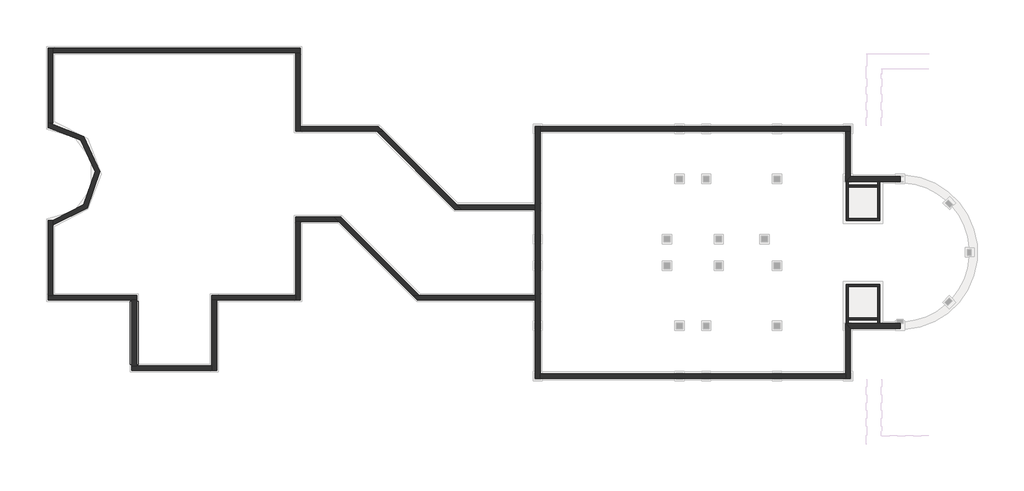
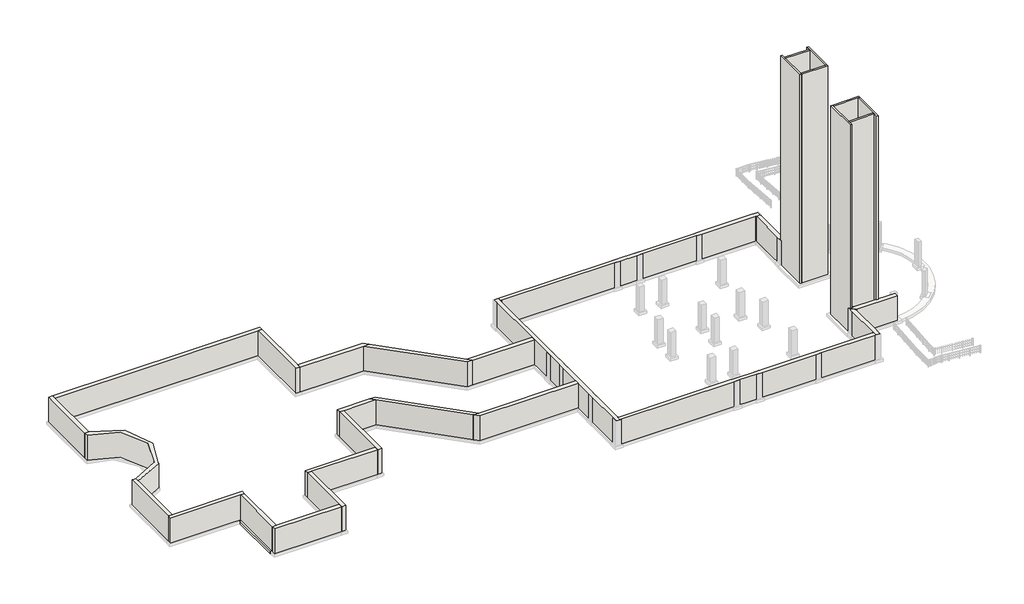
# One storey, part 1 of 3: 32 walls, 1 footing.
"""IFC4 building model written with IfcOpenShell, lengths in millimetres."""

from ifc_helpers import new_model, si_unit, frame, origin, place, context, project, spatial, polyline, circle_curve, outline, extrude, faceted_brep, element, save
from ifc_brep_helpers import plane_surface, cylinder_surface, revolved_surface, advanced_brep

model = new_model("IFC4")

# Units and contexts
model_context = context("Model", 3, world=origin())
ifc_project = project(units=[si_unit("LENGTHUNIT", "METRE", prefix="MILLI")], contexts=[model_context])

# Site, building, storey
site = spatial("IfcSite", under=ifc_project)
building = spatial("IfcBuilding", under=site)
storey = spatial("IfcBuildingStorey", under=building, Name="T.O. Footing", Elevation=-3048.0)

# Footing
placement = place(None, origin())
element("IfcFooting", 1, ObjectType="Bearing Footing - 30\" x 12\"", at=placement, inside=storey, context=model_context, shape_type="SweptSolid", body=[
    extrude(outline(polyline([(-59651.3148623, 652.3112109), (-58889.3148623, 652.3112109), (-58889.3148623, -5443.6887891), (-59651.3148623, -5443.6887891), (-59651.3148623, 652.3112109)])), frame((0.0, 0.0, -3352.8), z_axis=(0.0, 0.0, 1.0), x_axis=(1.0, 0.0, 0.0)), (0.0, 0.0, 1.0), 304.8),
])

# Walls
element("IfcWall", 2, ObjectType="18\" Concrete", at=placement, inside=storey, context=model_context, shape_type="Brep", body=[
    faceted_brep([(-19852.725255, -6815.2887891, -3048.0), (-19852.725255, -6358.0887891, -3048.0), (-19852.725255, -6281.8887891, -3048.0), (-19852.725255, -2014.6887891, -3048.0), (-19852.725255, -1405.0887891, -3048.0), (-19852.725255, 3827.3112109, -3048.0), (-19852.725255, 4436.9112109, -3048.0), (-19852.725255, 6421.2862109, -3048.0), (-19852.725255, 7030.8862109, -3048.0), (-19852.725255, 17140.0862109, -3048.0), (-19852.725255, 17216.2862109, -3048.0), (-19852.725255, 17673.4862109, -3048.0), (-19852.725255, 17673.4862109, 0.0), (-19852.725255, 17216.2862109, 0.0), (-19852.725255, 17140.0862109, 0.0), (-19852.725255, 7030.8862109, 0.0), (-19852.725255, 6421.2862109, 0.0), (-19852.725255, 4436.9112109, 0.0), (-19852.725255, 3827.3112109, 0.0), (-19852.725255, -1405.0887891, 0.0), (-19852.725255, -2014.6887891, 0.0), (-19852.725255, -6281.8887891, 0.0), (-19852.725255, -6358.0887891, 0.0), (-19852.725255, -6815.2887891, 0.0), (-20309.925255, -6815.2887891, -3048.0), (-20309.925255, -6815.2887891, 0.0), (-20309.925255, -6281.8887891, 0.0), (-20309.925255, -2014.6887891, 0.0), (-20309.925255, -1405.0887891, 0.0), (-20309.925255, 804.7112109, 0.0), (-20309.925255, 1261.9112109, 0.0), (-20309.925255, 3827.3112109, 0.0), (-20309.925255, 4436.9112109, 0.0), (-20309.925255, 6421.2862109, 0.0), (-20309.925255, 7030.8862109, 0.0), (-20309.925255, 9596.2862109, 0.0), (-20309.925255, 10053.4862109, 0.0), (-20309.925255, 17140.0862109, 0.0), (-20309.925255, 17673.4862109, 0.0), (-20309.925255, 17673.4862109, -3048.0), (-20309.925255, 17140.0862109, -3048.0), (-20309.925255, 10053.4862109, -3048.0), (-20309.925255, 9596.2862109, -3048.0), (-20309.925255, 7030.8862109, -3048.0), (-20309.925255, 6421.2862109, -3048.0), (-20309.925255, 4436.9112109, -3048.0), (-20309.925255, 3827.3112109, -3048.0), (-20309.925255, 1261.9112109, -3048.0), (-20309.925255, 804.7112109, -3048.0), (-20309.925255, -1405.0887891, -3048.0), (-20309.925255, -2014.6887891, -3048.0), (-20309.925255, -6281.8887891, -3048.0)], [[[0, 1, 2, 3, 4, 5, 6, 7, 8, 9, 10, 11, 12, 13, 14, 15, 16, 17, 18, 19, 20, 21, 22, 23]], [[24, 25, 26, 27, 28, 29, 30, 31, 32, 33, 34, 35, 36, 37, 38, 39, 40, 41, 42, 43, 44, 45, 46, 47, 48, 49, 50, 51]], [[11, 10, 9, 8, 7, 6, 5, 4, 3, 2, 1, 0, 24, 51, 50, 49, 48, 47, 46, 45, 44, 43, 42, 41, 40, 39]], [[23, 22, 21, 20, 19, 18, 17, 16, 15, 14, 13, 12, 38, 37, 36, 35, 34, 33, 32, 31, 30, 29, 28, 27, 26, 25]], [[12, 11, 39, 38]], [[0, 23, 25, 24]]]),
])
element("IfcWall", 3, ObjectType="18\" Concrete", at=placement, inside=storey, context=model_context, shape_type="Brep", body=[
    faceted_brep([(-19852.725255, 17216.2862109, -3048.0), (-19776.525255, 17216.2862109, -3048.0), (-6619.325255, 17216.2862109, -3048.0), (-6009.725255, 17216.2862109, -3048.0), (-4025.350255, 17216.2862109, -3048.0), (-3415.750255, 17216.2862109, -3048.0), (2858.049745, 17216.2862109, -3048.0), (3467.649745, 17216.2862109, -3048.0), (9741.449745, 17216.2862109, -3048.0), (9817.649745, 17216.2862109, -3048.0), (10274.849745, 17216.2862109, -3048.0), (10274.849745, 17216.2862109, 0.0), (9817.649745, 17216.2862109, 0.0), (9741.449745, 17216.2862109, 0.0), (3467.649745, 17216.2862109, 0.0), (2858.049745, 17216.2862109, 0.0), (-3415.750255, 17216.2862109, 0.0), (-4025.350255, 17216.2862109, 0.0), (-6009.725255, 17216.2862109, 0.0), (-6619.325255, 17216.2862109, 0.0), (-19776.525255, 17216.2862109, 0.0), (-19852.725255, 17216.2862109, 0.0), (-19852.725255, 17673.4862109, -3048.0), (-19852.725255, 17673.4862109, 0.0), (-19776.525255, 17673.4862109, 0.0), (-6619.325255, 17673.4862109, 0.0), (-6009.725255, 17673.4862109, 0.0), (-4025.350255, 17673.4862109, 0.0), (-3415.750255, 17673.4862109, 0.0), (2858.049745, 17673.4862109, 0.0), (3467.649745, 17673.4862109, 0.0), (9741.449745, 17673.4862109, 0.0), (10274.849745, 17673.4862109, 0.0), (10274.849745, 17673.4862109, -3048.0), (9741.449745, 17673.4862109, -3048.0), (3467.649745, 17673.4862109, -3048.0), (2858.049745, 17673.4862109, -3048.0), (-3415.750255, 17673.4862109, -3048.0), (-4025.350255, 17673.4862109, -3048.0), (-6009.725255, 17673.4862109, -3048.0), (-6619.325255, 17673.4862109, -3048.0), (-19776.525255, 17673.4862109, -3048.0)], [[[0, 1, 2, 3, 4, 5, 6, 7, 8, 9, 10, 11, 12, 13, 14, 15, 16, 17, 18, 19, 20, 21]], [[22, 23, 24, 25, 26, 27, 28, 29, 30, 31, 32, 33, 34, 35, 36, 37, 38, 39, 40, 41]], [[10, 9, 8, 7, 6, 5, 4, 3, 2, 1, 0, 22, 41, 40, 39, 38, 37, 36, 35, 34, 33]], [[21, 20, 19, 18, 17, 16, 15, 14, 13, 12, 11, 32, 31, 30, 29, 28, 27, 26, 25, 24, 23]], [[0, 21, 23, 22]], [[11, 10, 33, 32]]]),
])
element("IfcWall", 4, ObjectType="18\" Concrete", at=placement, inside=storey, context=model_context, shape_type="Brep", body=[
    faceted_brep([(9817.649745, 17216.2862109, -3048.0), (9817.649745, 17140.0862109, -3048.0), (9817.649745, 12872.8862109, -3048.0), (9817.649745, 12339.4862109, -3048.0), (9817.649745, 12339.4862109, 0.0), (9817.649745, 12872.8862109, 0.0), (9817.649745, 17140.0862109, 0.0), (9817.649745, 17216.2862109, 0.0), (10274.849745, 17216.2862109, -3048.0), (10274.849745, 17216.2862109, 0.0), (10274.849745, 17140.0862109, 0.0), (10274.849745, 12872.8862109, 0.0), (10274.849745, 12796.6862109, 0.0), (10274.849745, 12796.6862109, -3048.0), (10274.849745, 12872.8862109, -3048.0), (10274.849745, 17140.0862109, -3048.0)], [[[0, 1, 2, 3, 4, 5, 6, 7]], [[8, 9, 10, 11, 12, 13, 14, 15]], [[3, 2, 1, 0, 8, 15, 14, 13]], [[7, 6, 5, 4, 12, 11, 10, 9]], [[0, 7, 9, 8]], [[4, 3, 13, 12]]]),
])
element("IfcWall", 5, ObjectType="18\" Concrete", at=placement, inside=storey, context=model_context, shape_type="Brep", body=[
    faceted_brep([(9817.649745, 12339.4862109, -3048.0), (10351.049745, 12339.4862109, -3048.0), (14794.462245, 12339.4862109, -3048.0), (15099.262245, 12339.4862109, -3048.0), (15099.262245, 12339.4862109, 0.0), (14794.462245, 12339.4862109, 0.0), (10351.049745, 12339.4862109, 0.0), (9817.649745, 12339.4862109, 0.0), (10274.849745, 12796.6862109, -3048.0), (10274.849745, 12796.6862109, 0.0), (10351.049745, 12796.6862109, 0.0), (14794.462245, 12796.6862109, 0.0), (15099.262245, 12796.6862109, 0.0), (15099.262245, 12796.6862109, -3048.0), (14794.462245, 12796.6862109, -3048.0), (10351.049745, 12796.6862109, -3048.0)], [[[0, 1, 2, 3, 4, 5, 6, 7]], [[8, 9, 10, 11, 12, 13, 14, 15]], [[3, 2, 1, 0, 8, 15, 14, 13]], [[4, 3, 13, 12]], [[7, 6, 5, 4, 12, 11, 10, 9]], [[0, 7, 9, 8]]]),
])
element("IfcWall", 6, ObjectType="18\" Concrete", at=placement, inside=storey, context=model_context, shape_type="Brep", body=[
    faceted_brep([(10274.849745, -1938.4887891, -3048.0), (10351.049745, -1938.4887891, -3048.0), (15099.262245, -1938.4887891, -3048.0), (15099.262245, -1938.4887891, 0.0), (10351.049745, -1938.4887891, 0.0), (10274.849745, -1938.4887891, 0.0), (9817.649745, -1481.2887891, -3048.0), (9817.649745, -1481.2887891, 0.0), (10351.049745, -1481.2887891, 0.0), (14794.462245, -1481.2887891, 0.0), (15099.262245, -1481.2887891, 0.0), (15099.262245, -1481.2887891, -3048.0), (14794.462245, -1481.2887891, -3048.0), (10351.049745, -1481.2887891, -3048.0)], [[[0, 1, 2, 3, 4, 5]], [[6, 7, 8, 9, 10, 11, 12, 13]], [[2, 1, 0, 6, 13, 12, 11]], [[3, 2, 11, 10]], [[5, 4, 3, 10, 9, 8, 7]], [[0, 5, 7, 6]]]),
])
element("IfcWall", 7, ObjectType="18\" Concrete", at=placement, inside=storey, context=model_context, shape_type="Brep", body=[
    faceted_brep([(10274.849745, -6815.2887891, -3048.0), (10274.849745, -6281.8887891, -3048.0), (10274.849745, -2014.6887891, -3048.0), (10274.849745, -1938.4887891, -3048.0), (10274.849745, -1938.4887891, 0.0), (10274.849745, -2014.6887891, 0.0), (10274.849745, -6281.8887891, 0.0), (10274.849745, -6815.2887891, 0.0), (9817.649745, -6815.2887891, -3048.0), (9817.649745, -6815.2887891, 0.0), (9817.649745, -6358.0887891, 0.0), (9817.649745, -6281.8887891, 0.0), (9817.649745, -2014.6887891, 0.0), (9817.649745, -1481.2887891, 0.0), (9817.649745, -1481.2887891, -3048.0), (9817.649745, -2014.6887891, -3048.0), (9817.649745, -6281.8887891, -3048.0), (9817.649745, -6358.0887891, -3048.0)], [[[0, 1, 2, 3, 4, 5, 6, 7]], [[8, 9, 10, 11, 12, 13, 14, 15, 16, 17]], [[3, 2, 1, 0, 8, 17, 16, 15, 14]], [[7, 6, 5, 4, 13, 12, 11, 10, 9]], [[4, 3, 14, 13]], [[0, 7, 9, 8]]]),
])
element("IfcWall", 8, ObjectType="18\" Concrete", at=placement, inside=storey, context=model_context, shape_type="Brep", body=[
    faceted_brep([(9817.649745, -6358.0887891, -3048.0), (9741.449745, -6358.0887891, -3048.0), (3467.649745, -6358.0887891, -3048.0), (2858.049745, -6358.0887891, -3048.0), (-3415.750255, -6358.0887891, -3048.0), (-4025.350255, -6358.0887891, -3048.0), (-6009.725255, -6358.0887891, -3048.0), (-6619.325255, -6358.0887891, -3048.0), (-19776.525255, -6358.0887891, -3048.0), (-19852.725255, -6358.0887891, -3048.0), (-19852.725255, -6358.0887891, 0.0), (-19776.525255, -6358.0887891, 0.0), (-6619.325255, -6358.0887891, 0.0), (-6009.725255, -6358.0887891, 0.0), (-4025.350255, -6358.0887891, 0.0), (-3415.750255, -6358.0887891, 0.0), (2858.049745, -6358.0887891, 0.0), (3467.649745, -6358.0887891, 0.0), (9741.449745, -6358.0887891, 0.0), (9817.649745, -6358.0887891, 0.0), (9817.649745, -6815.2887891, -3048.0), (9817.649745, -6815.2887891, 0.0), (9741.449745, -6815.2887891, 0.0), (3467.649745, -6815.2887891, 0.0), (2858.049745, -6815.2887891, 0.0), (-3415.750255, -6815.2887891, 0.0), (-4025.350255, -6815.2887891, 0.0), (-6009.725255, -6815.2887891, 0.0), (-6619.325255, -6815.2887891, 0.0), (-19776.525255, -6815.2887891, 0.0), (-19852.725255, -6815.2887891, 0.0), (-19852.725255, -6815.2887891, -3048.0), (-19776.525255, -6815.2887891, -3048.0), (-6619.325255, -6815.2887891, -3048.0), (-6009.725255, -6815.2887891, -3048.0), (-4025.350255, -6815.2887891, -3048.0), (-3415.750255, -6815.2887891, -3048.0), (2858.049745, -6815.2887891, -3048.0), (3467.649745, -6815.2887891, -3048.0), (9741.449745, -6815.2887891, -3048.0)], [[[0, 1, 2, 3, 4, 5, 6, 7, 8, 9, 10, 11, 12, 13, 14, 15, 16, 17, 18, 19]], [[20, 21, 22, 23, 24, 25, 26, 27, 28, 29, 30, 31, 32, 33, 34, 35, 36, 37, 38, 39]], [[9, 8, 7, 6, 5, 4, 3, 2, 1, 0, 20, 39, 38, 37, 36, 35, 34, 33, 32, 31]], [[19, 18, 17, 16, 15, 14, 13, 12, 11, 10, 30, 29, 28, 27, 26, 25, 24, 23, 22, 21]], [[10, 9, 31, 30]], [[0, 19, 21, 20]]]),
])
element("IfcWall", 9, ObjectType="18\" Concrete", at=placement, inside=storey, context=model_context, shape_type="Brep", body=[
    faceted_brep([(-20309.925255, 1261.9112109, -3048.0), (-31570.417349, 1261.9112109, -3048.0), (-32216.9957897, 1261.9112109, -3048.0), (-32216.9957897, 1261.9112109, 0.0), (-31570.417349, 1261.9112109, 0.0), (-20309.925255, 1261.9112109, 0.0), (-20309.925255, 804.7112109, -3048.0), (-20309.925255, 804.7112109, 0.0), (-31759.7957897, 804.7112109, 0.0), (-31759.7957897, 804.7112109, -3048.0)], [[[0, 1, 2, 3, 4, 5]], [[6, 7, 8, 9]], [[2, 1, 0, 6, 9]], [[5, 4, 3, 8, 7]], [[0, 5, 7, 6]], [[3, 2, 9, 8]]]),
])
element("IfcWall", 10, ObjectType="18\" Concrete", at=placement, inside=storey, context=model_context, shape_type="Brep", body=[
    faceted_brep([(-31570.417349, 1261.9112109, -3048.0), (-39190.417349, 8881.9112109, -3048.0), (-39190.417349, 8881.9112109, 0.0), (-31570.417349, 1261.9112109, 0.0), (-32216.9957897, 1261.9112109, -3048.0), (-32216.9957897, 1261.9112109, 0.0), (-39379.7957897, 8424.7112109, 0.0), (-39836.9957897, 8881.9112109, 0.0), (-39836.9957897, 8881.9112109, -3048.0), (-39379.7957897, 8424.7112109, -3048.0)], [[[0, 1, 2, 3]], [[4, 5, 6, 7, 8, 9]], [[1, 0, 4, 9, 8]], [[3, 2, 7, 6, 5]], [[0, 3, 5, 4]], [[2, 1, 8, 7]]]),
])
element("IfcWall", 11, ObjectType="18\" Concrete", at=placement, inside=storey, context=model_context, shape_type="Brep", body=[
    faceted_brep([(-39836.9957897, 8881.9112109, -3048.0), (-43595.3398623, 8881.9112109, -3048.0), (-43595.3398623, 8881.9112109, 0.0), (-39836.9957897, 8881.9112109, 0.0), (-39379.7957897, 8424.7112109, -3048.0), (-39379.7957897, 8424.7112109, 0.0), (-43138.1398623, 8424.7112109, 0.0), (-43595.3398623, 8424.7112109, 0.0), (-43595.3398623, 8424.7112109, -3048.0), (-43138.1398623, 8424.7112109, -3048.0)], [[[0, 1, 2, 3]], [[4, 5, 6, 7, 8, 9]], [[1, 0, 4, 9, 8]], [[3, 2, 7, 6, 5]], [[0, 3, 5, 4]], [[2, 1, 8, 7]]]),
])
element("IfcWall", 12, ObjectType="18\" Concrete", at=placement, inside=storey, context=model_context, shape_type="Brep", body=[
    faceted_brep([(-43138.1398623, 804.7112109, -3048.0), (-43138.1398623, 8424.7112109, -3048.0), (-43138.1398623, 8424.7112109, 0.0), (-43138.1398623, 804.7112109, 0.0), (-43595.3398623, 804.7112109, -3048.0), (-43595.3398623, 804.7112109, 0.0), (-43595.3398623, 1261.9112109, 0.0), (-43595.3398623, 8424.7112109, 0.0), (-43595.3398623, 8424.7112109, -3048.0), (-43595.3398623, 1261.9112109, -3048.0)], [[[0, 1, 2, 3]], [[4, 5, 6, 7, 8, 9]], [[1, 0, 4, 9, 8]], [[3, 2, 7, 6, 5]], [[2, 1, 8, 7]], [[0, 3, 5, 4]]]),
])
element("IfcWall", 13, ObjectType="18\" Concrete", at=placement, inside=storey, context=model_context, shape_type="Brep", body=[
    faceted_brep([(-67626.9148623, 804.7112109, -3048.0), (-59498.9148623, 804.7112109, -3048.0), (-59041.7148623, 804.7112109, -3048.0), (-59041.7148623, 804.7112109, 0.0), (-59498.9148623, 804.7112109, 0.0), (-67626.9148623, 804.7112109, 0.0), (-67626.9148623, 1261.9112109, -3048.0), (-67626.9148623, 1261.9112109, 0.0), (-67169.7148623, 1261.9112109, 0.0), (-59041.7148623, 1261.9112109, 0.0), (-59041.7148623, 1261.9112109, -3048.0), (-67169.7148623, 1261.9112109, -3048.0)], [[[0, 1, 2, 3, 4, 5]], [[6, 7, 8, 9, 10, 11]], [[2, 1, 0, 6, 11, 10]], [[5, 4, 3, 9, 8, 7]], [[0, 5, 7, 6]], [[3, 2, 10, 9]]]),
])
element("IfcWall", 14, ObjectType="18\" Concrete", at=placement, inside=storey, context=model_context, shape_type="Brep", body=[
    faceted_brep([(-51723.3398623, 804.7112109, -3048.0), (-51723.3398623, -5596.0887891, -3048.0), (-51723.3398623, -6053.2887891, -3048.0), (-51723.3398623, -6053.2887891, 0.0), (-51723.3398623, -5596.0887891, 0.0), (-51723.3398623, 804.7112109, 0.0), (-51266.1398623, 804.7112109, -3048.0), (-51266.1398623, 804.7112109, 0.0), (-51266.1398623, -6053.2887891, 0.0), (-51266.1398623, -6053.2887891, -3048.0)], [[[0, 1, 2, 3, 4, 5]], [[6, 7, 8, 9]], [[2, 1, 0, 6, 9]], [[5, 4, 3, 8, 7]], [[0, 5, 7, 6]], [[3, 2, 9, 8]]]),
])
element("IfcWall", 15, ObjectType="18\" Concrete", at=placement, inside=storey, context=model_context, shape_type="Brep", body=[
    faceted_brep([(-59498.9148623, -6053.2887891, -3048.0), (-51723.3398623, -6053.2887891, -3048.0), (-51723.3398623, -6053.2887891, 0.0), (-59498.9148623, -6053.2887891, 0.0), (-59498.9148623, -5596.0887891, -3048.0), (-59498.9148623, -5596.0887891, 0.0), (-59041.7148623, -5596.0887891, 0.0), (-51723.3398623, -5596.0887891, 0.0), (-51723.3398623, -5596.0887891, -3048.0), (-59041.7148623, -5596.0887891, -3048.0)], [[[0, 1, 2, 3]], [[4, 5, 6, 7, 8, 9]], [[1, 0, 4, 9, 8]], [[3, 2, 7, 6, 5]], [[2, 1, 8, 7]], [[0, 3, 5, 4]]]),
])
element("IfcWall", 16, ObjectType="18\" Concrete", at=placement, inside=storey, context=model_context, shape_type="SweptSolid", body=[
    extrude(outline(polyline([(-59041.7148623, 804.7112109), (-59041.7148623, -5596.0887891), (-59498.9148623, -5596.0887891), (-59498.9148623, 804.7112109), (-59041.7148623, 804.7112109)])), frame((0.0, 0.0, -3048.0), z_axis=(0.0, 0.0, 1.0), x_axis=(1.0, 0.0, 0.0)), (0.0, 0.0, 1.0), 3048.0),
])
element("IfcWall", 17, ObjectType="18\" Concrete", at=placement, inside=storey, context=model_context, shape_type="AdvancedBrep", body=[
    advanced_brep(
    [(-67626.9148623, 8529.7898368, -3048.0), (-67626.9148623, 1261.9112109, -3048.0), (-67626.9148623, 1261.9112109, 0.0), (-67626.9148623, 8529.7898368, 0.0), (-67169.7148623, 8547.6518335, -3048.0), (-67169.7148623, 8547.6518335, 0.0), (-67169.7148623, 8088.7771991, 0.0), (-67169.7148623, 1261.9112109, 0.0), (-67169.7148623, 1261.9112109, -3048.0), (-67169.7148623, 8088.7771991, -3048.0)],
    [
        (0, 1),
        (1, 2),
        (2, 3),
        (3, 0),
        (4, 5),
        (5, 6),
        (6, 7),
        (7, 8),
        (8, 9),
        (9, 4),
        (0, 4, circle_curve(frame((-67574.5273623, 13049.0987109, -3048.0), z_axis=(0.0, 0.0, 1.0), x_axis=(1.0, 0.0, 0.0)), 4519.6125)),
        (8, 1),
        (2, 7),
        (5, 3, circle_curve(frame((-67574.5273623, 13049.0987109, 0.0), z_axis=(0.0, 0.0, -1.0), x_axis=(1.0, 0.0, 0.0)), 4519.6125)),
    ],
    [
        plane_surface(frame((-67626.9148623, 8304.157078, -3048.0), z_axis=(-1.0, 0.0, 0.0), x_axis=(0.0, -1.0, 0.0))),
        plane_surface(frame((-67169.7148623, 8304.157078, -3048.0), z_axis=(1.0, 0.0, 0.0), x_axis=(0.0, 1.0, 0.0))),
        plane_surface(frame((-67626.9148623, 8304.157078, -3048.0), z_axis=(0.0, 0.0, -1.0), x_axis=(1.0, 0.0, 0.0))),
        plane_surface(frame((-67626.9148623, 1033.3112109, 0.0), z_axis=(0.0, 0.0, 1.0), x_axis=(1.0, 0.0, 0.0))),
        plane_surface(frame((-67222.1023623, 1261.9112109, -3048.0), z_axis=(0.0, -1.0, 0.0), x_axis=(-1.0, 0.0, 0.0))),
        revolved_surface(polyline([(-63054.91486229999, 13049.0987109, -3048.0), (-63054.91486229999, 13049.0987109, 0.0)]), (-67574.5273623, 13049.0987109, -3048.0), (0.0, 0.0, -1.0)),
    ],
    [
        (0, [[1, 2, 3, 4]]),
        (1, [[5, 6, 7, 8, 9, 10]]),
        (2, [[-1, 11, -10, -9, 12]]),
        (3, [[-3, 13, -7, -6, 14]]),
        (4, [[-2, -12, -8, -13]]),
        (5, [[-4, -14, -5, -11]]),
    ],
),
])
element("IfcWall", 18, ObjectType="18\" Concrete", at=placement, inside=storey, context=model_context, shape_type="AdvancedBrep", body=[
    advanced_brep(
    [(-67169.7148623, 8088.7771991, 0.0), (-67169.70501, 18009.4191719, 0.0), (-67626.9148623, 18025.6354796, 0.0), (-67626.9148623, 17568.4075851, 0.0), (-67169.7148623, 8547.6518335, 0.0), (-67169.7148623, 8088.7771991, -3048.0), (-67169.7148623, 8547.6518335, -3048.0), (-67626.9148623, 17568.4075851, -3048.0), (-67626.9148623, 18025.6354796, -3048.0), (-67169.70501, 18009.4191719, -3048.0)],
    [
        (0, 1, circle_curve(frame((-67574.5273623, 13049.0987109, 0.0), z_axis=(0.0, 0.0, 1.0), x_axis=(1.0, 0.0, 0.0)), 4976.8125)),
        (1, 2, circle_curve(frame((-67574.5273623, 13049.0987109, 0.0), z_axis=(0.0, 0.0, 1.0), x_axis=(1.0, 0.0, 0.0)), 4976.8122542)),
        (2, 3),
        (3, 4, circle_curve(frame((-67574.5273623, 13049.0987109, 0.0), z_axis=(0.0, 0.0, -1.0), x_axis=(1.0, 0.0, 0.0)), 4519.6125)),
        (4, 0),
        (5, 6),
        (6, 7, circle_curve(frame((-67574.5273623, 13049.0987109, -3048.0), z_axis=(0.0, 0.0, 1.0), x_axis=(1.0, 0.0, 0.0)), 4519.6125)),
        (7, 8),
        (8, 9, circle_curve(frame((-67574.5273623, 13049.0987109, -3048.0), z_axis=(0.0, 0.0, -1.0), x_axis=(1.0, 0.0, 0.0)), 4976.8125)),
        (9, 5, circle_curve(frame((-67574.5273623, 13049.0987109, -3048.0), z_axis=(0.0, 0.0, -1.0), x_axis=(1.0, 0.0, 0.0)), 4976.8122542)),
        (0, 5),
        (8, 2),
        (3, 7),
        (6, 4),
    ],
    [
        plane_surface(frame((-62597.7148623, 13049.0987109, 0.0), z_axis=(0.0, 0.0, 1.0), x_axis=(0.0, 1.0, 0.0))),
        plane_surface(frame((-62597.7148623, 13049.0987109, -3048.0), z_axis=(0.0, 0.0, -1.0), x_axis=(0.0, -1.0, 0.0))),
        cylinder_surface(frame((-67574.5273623, 13049.0987109, -3048.0), z_axis=(0.0, 0.0, 1.0), x_axis=(1.0, 0.0, 0.0)), 4976.8125),
        revolved_surface(polyline([(-63054.91486229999, 13049.0987109, -3048.0), (-63054.91486229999, 13049.0987109, 0.0)]), (-67574.5273623, 13049.0987109, -3048.0), (0.0, 0.0, -1.0)),
        plane_surface(frame((-67169.7148623, 8304.157078, -3048.0), z_axis=(-1.0, 0.0, 0.0), x_axis=(0.0, 1.0, 0.0))),
        plane_surface(frame((-67626.9148623, 25064.8862109, -3048.0), z_axis=(-1.0, 0.0, 0.0), x_axis=(0.0, -1.0, 0.0))),
    ],
    [
        (0, [[1, 2, 3, 4, 5]]),
        (1, [[6, 7, 8, 9, 10]]),
        (2, [[-2, -1, 11, -10, -9, 12]]),
        (3, [[-4, 13, -7, 14]]),
        (4, [[-5, -14, -6, -11]]),
        (5, [[-3, -12, -8, -13]]),
    ],
),
])
element("IfcWall", 19, ObjectType="18\" Concrete", at=placement, inside=storey, context=model_context, shape_type="AdvancedBrep", body=[
    advanced_brep(
    [(-67626.9148623, 25293.4862109, -3048.0), (-67626.9148623, 18025.6354796, -3048.0), (-67626.9148623, 18025.6354796, 0.0), (-67626.9148623, 25293.4862109, 0.0), (-67169.7148623, 25293.4862109, -3048.0), (-67169.7148623, 25293.4862109, 0.0), (-67169.7148623, 24836.2862109, 0.0), (-67169.7148623, 18009.4202227, 0.0), (-67169.7148623, 18009.4202227, -3048.0), (-67169.7148623, 24836.2862109, -3048.0)],
    [
        (0, 1),
        (1, 2),
        (2, 3),
        (3, 0),
        (4, 5),
        (5, 6),
        (6, 7),
        (7, 8),
        (8, 9),
        (9, 4),
        (0, 4),
        (8, 1, circle_curve(frame((-67574.5273623, 13049.0987109, -3048.0), z_axis=(0.0, 0.0, 1.0), x_axis=(1.0, 0.0, 0.0)), 4976.8125)),
        (2, 7, circle_curve(frame((-67574.5273623, 13049.0987109, 0.0), z_axis=(0.0, 0.0, -1.0), x_axis=(1.0, 0.0, 0.0)), 4976.8125)),
        (5, 3),
    ],
    [
        plane_surface(frame((-67626.9148623, 25064.8862109, -3048.0), z_axis=(-1.0, 0.0, 0.0), x_axis=(0.0, -1.0, 0.0))),
        plane_surface(frame((-67169.7148623, 25064.8862109, -3048.0), z_axis=(1.0, 0.0, 0.0), x_axis=(0.0, 1.0, 0.0))),
        plane_surface(frame((-67626.9148623, 25064.8862109, -3048.0), z_axis=(0.0, 0.0, -1.0), x_axis=(1.0, 0.0, 0.0))),
        plane_surface(frame((-67626.9148623, 17794.0403438, 0.0), z_axis=(0.0, 0.0, 1.0), x_axis=(1.0, 0.0, 0.0))),
        revolved_surface(polyline([(-62597.714862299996, 13049.0987109, 0.0), (-62597.714862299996, 13049.0987109, -3048.0)]), (-67574.5273623, 13049.0987109, -3048.0), (0.0, 0.0, 1.0)),
        plane_surface(frame((-43366.7398623, 25293.4862109, -3048.0), z_axis=(0.0, 1.0, 0.0), x_axis=(-1.0, 0.0, 0.0))),
    ],
    [
        (0, [[1, 2, 3, 4]]),
        (1, [[5, 6, 7, 8, 9, 10]]),
        (2, [[-1, 11, -10, -9, 12]]),
        (3, [[-3, 13, -7, -6, 14]]),
        (4, [[-2, -12, -8, -13]]),
        (5, [[-4, -14, -5, -11]]),
    ],
),
])
element("IfcWall", 20, ObjectType="18\" Concrete", at=placement, inside=storey, context=model_context, shape_type="Brep", body=[
    faceted_brep([(-43138.1398623, 25293.4862109, -3048.0), (-67169.7148623, 25293.4862109, -3048.0), (-67169.7148623, 25293.4862109, 0.0), (-43138.1398623, 25293.4862109, 0.0), (-43138.1398623, 24836.2862109, -3048.0), (-43138.1398623, 24836.2862109, 0.0), (-43595.3398623, 24836.2862109, 0.0), (-67169.7148623, 24836.2862109, 0.0), (-67169.7148623, 24836.2862109, -3048.0), (-43595.3398623, 24836.2862109, -3048.0)], [[[0, 1, 2, 3]], [[4, 5, 6, 7, 8, 9]], [[1, 0, 4, 9, 8]], [[3, 2, 7, 6, 5]], [[2, 1, 8, 7]], [[0, 3, 5, 4]]]),
])
element("IfcWall", 21, ObjectType="18\" Concrete", at=placement, inside=storey, context=model_context, shape_type="Brep", body=[
    faceted_brep([(-43138.1398623, 17216.2862109, -3048.0), (-43138.1398623, 17673.4862109, -3048.0), (-43138.1398623, 24836.2862109, -3048.0), (-43138.1398623, 24836.2862109, 0.0), (-43138.1398623, 17673.4862109, 0.0), (-43138.1398623, 17216.2862109, 0.0), (-43595.3398623, 17216.2862109, -3048.0), (-43595.3398623, 17216.2862109, 0.0), (-43595.3398623, 24836.2862109, 0.0), (-43595.3398623, 24836.2862109, -3048.0)], [[[0, 1, 2, 3, 4, 5]], [[6, 7, 8, 9]], [[2, 1, 0, 6, 9]], [[5, 4, 3, 8, 7]], [[3, 2, 9, 8]], [[0, 5, 7, 6]]]),
])
element("IfcWall", 22, ObjectType="18\" Concrete", at=placement, inside=storey, context=model_context, shape_type="Brep", body=[
    faceted_brep([(-35548.8277493, 17673.4862109, -3048.0), (-43138.1398623, 17673.4862109, -3048.0), (-43138.1398623, 17673.4862109, 0.0), (-35548.8277493, 17673.4862109, 0.0), (-35091.6277493, 17216.2862109, -3048.0), (-35091.6277493, 17216.2862109, 0.0), (-35738.2061901, 17216.2862109, 0.0), (-43138.1398623, 17216.2862109, 0.0), (-43138.1398623, 17216.2862109, -3048.0), (-35738.2061901, 17216.2862109, -3048.0)], [[[0, 1, 2, 3]], [[4, 5, 6, 7, 8, 9]], [[1, 0, 4, 9, 8]], [[3, 2, 7, 6, 5]], [[2, 1, 8, 7]], [[0, 3, 5, 4]]]),
])
element("IfcWall", 23, ObjectType="18\" Concrete", at=placement, inside=storey, context=model_context, shape_type="Brep", body=[
    faceted_brep([(-27471.6277493, 9596.2862109, -3048.0), (-27928.8277493, 10053.4862109, -3048.0), (-35091.6277493, 17216.2862109, -3048.0), (-35091.6277493, 17216.2862109, 0.0), (-27928.8277493, 10053.4862109, 0.0), (-27471.6277493, 9596.2862109, 0.0), (-28118.2061901, 9596.2862109, -3048.0), (-28118.2061901, 9596.2862109, 0.0), (-35738.2061901, 17216.2862109, 0.0), (-35738.2061901, 17216.2862109, -3048.0)], [[[0, 1, 2, 3, 4, 5]], [[6, 7, 8, 9]], [[2, 1, 0, 6, 9]], [[5, 4, 3, 8, 7]], [[3, 2, 9, 8]], [[0, 5, 7, 6]]]),
])
element("IfcWall", 24, ObjectType="18\" Concrete", at=placement, inside=storey, context=model_context, shape_type="SweptSolid", body=[
    extrude(outline(polyline([(-27928.8277493, 10053.4862109), (-20309.925255, 10053.4862109), (-20309.925255, 9596.2862109), (-27471.6277493, 9596.2862109), (-27928.8277493, 10053.4862109)])), frame((0.0, 0.0, -3048.0), z_axis=(0.0, 0.0, 1.0), x_axis=(1.0, 0.0, 0.0)), (0.0, 0.0, 1.0), 3048.0),
])
element("IfcWall", 25, ObjectType="18\" Concrete", at=placement, inside=storey, context=model_context, shape_type="Brep", body=[
    faceted_brep([(-51723.3398623, 804.7112109, -3048.0), (-51266.1398623, 804.7112109, -3048.0), (-43595.3398623, 804.7112109, -3048.0), (-43595.3398623, 804.7112109, 0.0), (-51266.1398623, 804.7112109, 0.0), (-51723.3398623, 804.7112109, 0.0), (-51723.3398623, 1261.9112109, -3048.0), (-51723.3398623, 1261.9112109, 0.0), (-43595.3398623, 1261.9112109, 0.0), (-43595.3398623, 1261.9112109, -3048.0)], [[[0, 1, 2, 3, 4, 5]], [[6, 7, 8, 9]], [[2, 1, 0, 6, 9]], [[5, 4, 3, 8, 7]], [[3, 2, 9, 8]], [[0, 5, 7, 6]]]),
])
element("IfcWall", 26, ObjectType="Generic - 8\" Masonry", at=placement, inside=storey, context=model_context, shape_type="Brep", body=[
    faceted_brep([(9870.037245, 12339.4862109, -3048.0), (9870.037245, 8540.5987109, -3048.0), (9870.037245, 8540.5987109, 0.0), (9870.037245, 8540.5987109, 5308.6), (9870.037245, 8540.5987109, 5486.4), (9870.037245, 8540.5987109, 10795.0), (9870.037245, 8540.5987109, 10972.8), (9870.037245, 8540.5987109, 16281.4), (9870.037245, 8540.5987109, 16459.2), (9870.037245, 8540.5987109, 19329.4), (9870.037245, 8540.5987109, 19507.2), (9870.037245, 8540.5987109, 22555.2), (9870.037245, 8826.0868297, 22555.2), (9870.037245, 12391.8737109, 22555.2), (9870.037245, 12391.8737109, 0.0), (9870.037245, 12339.4862109, 0.0), (10063.712245, 12339.4862109, -3048.0), (10063.712245, 12339.4862109, 0.0), (10063.712245, 12391.8737109, 0.0), (10063.712245, 12391.8737109, 22555.2), (10063.712245, 11975.9487109, 22555.2), (10063.712245, 11782.2737109, 22555.2), (10063.712245, 8734.2737109, 22555.2), (10063.712245, 8540.5987109, 22555.2), (10063.712245, 8540.5987109, -3048.0), (10063.712245, 8734.2737109, -3048.0), (10063.712245, 11782.2737109, -3048.0), (10063.712245, 11975.9487109, -3048.0), (9873.7896139, 8540.5987109, 22555.2)], [[[0, 1, 2, 3, 4, 5, 6, 7, 8, 9, 10, 11, 12, 13, 14, 15]], [[16, 17, 18, 19, 20, 21, 22, 23, 24, 25, 26, 27]], [[1, 0, 16, 27, 26, 25, 24]], [[13, 12, 11, 28, 23, 22, 21, 20, 19]], [[11, 10, 9, 8, 7, 6, 5, 4, 3, 2, 1, 24, 23, 28]], [[14, 18, 17, 15]], [[0, 15, 17, 16]], [[13, 19, 18, 14]]]),
])
element("IfcWall", 27, ObjectType="Generic - 8\" Masonry", at=placement, inside=storey, context=model_context, shape_type="Brep", body=[
    faceted_brep([(10063.712245, 8540.5987109, -3048.0), (13111.712245, 8540.5987109, -3048.0), (13111.712245, 8540.5987109, 22555.2), (10063.712245, 8540.5987109, 22555.2), (10063.712245, 8734.2737109, -3048.0), (10063.712245, 8734.2737109, 22555.2), (12918.037245, 8734.2737109, 22555.2), (13111.712245, 8734.2737109, 22555.2), (13111.712245, 8734.2737109, -3048.0), (12918.037245, 8734.2737109, -3048.0)], [[[0, 1, 2, 3]], [[4, 5, 6, 7, 8, 9]], [[1, 0, 4, 9, 8]], [[3, 2, 7, 6, 5]], [[0, 3, 5, 4]], [[2, 1, 8, 7]]]),
])
element("IfcWall", 28, ObjectType="Generic - 8\" Masonry", at=placement, inside=storey, context=model_context, shape_type="Brep", body=[
    faceted_brep([(13111.712245, 12404.5737109, 22555.2), (13111.712245, 8734.2737109, 22555.2), (13111.712245, 8734.2737109, -3048.0), (13111.712245, 12339.4862109, -3048.0), (13111.712245, 12339.4862109, 0.0), (13111.712245, 12404.5737109, 0.0), (12918.037245, 8734.2737109, 22555.2), (12918.037245, 11782.2737109, 22555.2), (12918.037245, 11975.9487109, 22555.2), (12918.037245, 12404.5737109, 22555.2), (12918.037245, 12404.5737109, 0.0), (12918.037245, 12339.4862109, 0.0), (12918.037245, 12339.4862109, -3048.0), (12918.037245, 11975.9487109, -3048.0), (12918.037245, 11782.2737109, -3048.0), (12918.037245, 8734.2737109, -3048.0)], [[[0, 1, 2, 3, 4, 5]], [[6, 7, 8, 9, 10, 11, 12, 13, 14, 15]], [[2, 15, 14, 13, 12, 3]], [[9, 0, 5, 10]], [[1, 0, 9, 8, 7, 6]], [[2, 1, 6, 15]], [[11, 4, 3, 12]], [[4, 11, 10, 5]]]),
])
element("IfcWall", 29, ObjectType="Generic - 8\" Masonry", at=placement, inside=storey, context=model_context, shape_type="SweptSolid", body=[
    extrude(outline(polyline([(12918.037245, 11782.2737109), (10063.712245, 11782.2737109), (10063.712245, 11975.9487109), (12918.037245, 11975.9487109), (12918.037245, 11782.2737109)])), frame((0.0, 0.0, -3048.0), z_axis=(0.0, 0.0, 1.0), x_axis=(1.0, 0.0, 0.0)), (0.0, 0.0, 1.0), 25603.2),
])
element("IfcWall", 30, ObjectType="Generic - 8\" Masonry", at=placement, inside=storey, context=model_context, shape_type="Brep", body=[
    faceted_brep([(10063.712245, -1481.2887891, -3048.0), (10063.712245, -1117.7512891, -3048.0), (10063.712245, -924.0762891, -3048.0), (10063.712245, 2123.9237109, -3048.0), (10063.712245, 2317.5987109, -3048.0), (10063.712245, 2317.5987109, 22555.2), (10063.712245, 2123.9237109, 22555.2), (10063.712245, -924.0762891, 22555.2), (10063.712245, -1117.7512891, 22555.2), (10063.712245, -1533.6762891, 22555.2), (10063.712245, -1533.6762891, 0.0), (10063.712245, -1481.2887891, 0.0), (9870.037245, -1481.2887891, -3048.0), (9870.037245, -1481.2887891, 0.0), (9870.037245, -1533.6762891, 0.0), (9870.037245, -1533.6762891, 22555.2), (9870.037245, 2032.1105921, 22555.2), (9870.037245, 2317.5987109, 22555.2), (9870.037245, 2317.5987109, 19507.2), (9870.037245, 2317.5987109, 19329.4), (9870.037245, 2317.5987109, 16459.2), (9870.037245, 2317.5987109, 16281.4), (9870.037245, 2317.5987109, 10972.8), (9870.037245, 2317.5987109, 10795.0), (9870.037245, 2317.5987109, 5486.4), (9870.037245, 2317.5987109, 5308.6), (9870.037245, 2317.5987109, 0.0), (9870.037245, 2317.5987109, -3048.0), (9873.7896139, 2317.5987109, 22555.2)], [[[0, 1, 2, 3, 4, 5, 6, 7, 8, 9, 10, 11]], [[12, 13, 14, 15, 16, 17, 18, 19, 20, 21, 22, 23, 24, 25, 26, 27]], [[4, 3, 2, 1, 0, 12, 27]], [[9, 8, 7, 6, 5, 28, 17, 16, 15]], [[5, 4, 27, 26, 25, 24, 23, 22, 21, 20, 19, 18, 17, 28]], [[10, 14, 13, 11]], [[0, 11, 13, 12]], [[9, 15, 14, 10]]]),
])
element("IfcWall", 31, ObjectType="Generic - 8\" Masonry", at=placement, inside=storey, context=model_context, shape_type="Brep", body=[
    faceted_brep([(10063.712245, 2123.9237109, -3048.0), (12918.037245, 2123.9237109, -3048.0), (13111.712245, 2123.9237109, -3048.0), (13111.712245, 2123.9237109, 22555.2), (12918.037245, 2123.9237109, 22555.2), (10063.712245, 2123.9237109, 22555.2), (10063.712245, 2317.5987109, -3048.0), (10063.712245, 2317.5987109, 22555.2), (13111.712245, 2317.5987109, 22555.2), (13111.712245, 2317.5987109, -3048.0)], [[[0, 1, 2, 3, 4, 5]], [[6, 7, 8, 9]], [[2, 1, 0, 6, 9]], [[5, 4, 3, 8, 7]], [[0, 5, 7, 6]], [[3, 2, 9, 8]]]),
])
element("IfcWall", 32, ObjectType="Generic - 8\" Masonry", at=placement, inside=storey, context=model_context, shape_type="Brep", body=[
    faceted_brep([(12918.037245, -1546.3762891, 22555.2), (12918.037245, -1117.7512891, 22555.2), (12918.037245, -924.0762891, 22555.2), (12918.037245, 2123.9237109, 22555.2), (12918.037245, 2123.9237109, -3048.0), (12918.037245, -924.0762891, -3048.0), (12918.037245, -1117.7512891, -3048.0), (12918.037245, -1481.2887891, -3048.0), (12918.037245, -1481.2887891, 0.0), (12918.037245, -1546.3762891, 0.0), (13111.712245, 2123.9237109, 22555.2), (13111.712245, -1546.3762891, 22555.2), (13111.712245, -1546.3762891, 0.0), (13111.712245, -1481.2887891, 0.0), (13111.712245, -1481.2887891, -3048.0), (13111.712245, 2123.9237109, -3048.0)], [[[0, 1, 2, 3, 4, 5, 6, 7, 8, 9]], [[10, 11, 12, 13, 14, 15]], [[4, 15, 14, 7, 6, 5]], [[11, 0, 9, 12]], [[3, 2, 1, 0, 11, 10]], [[4, 3, 10, 15]], [[13, 8, 7, 14]], [[8, 13, 12, 9]]]),
])
element("IfcWall", 33, ObjectType="Generic - 8\" Masonry", at=placement, inside=storey, context=model_context, shape_type="SweptSolid", body=[
    extrude(outline(polyline([(12918.037245, -1117.7512891), (10063.712245, -1117.7512891), (10063.712245, -924.0762891), (12918.037245, -924.0762891), (12918.037245, -1117.7512891)])), frame((0.0, 0.0, -3048.0), z_axis=(0.0, 0.0, 1.0), x_axis=(1.0, 0.0, 0.0)), (0.0, 0.0, 1.0), 25603.2),
])

save(model, "model.ifc")
